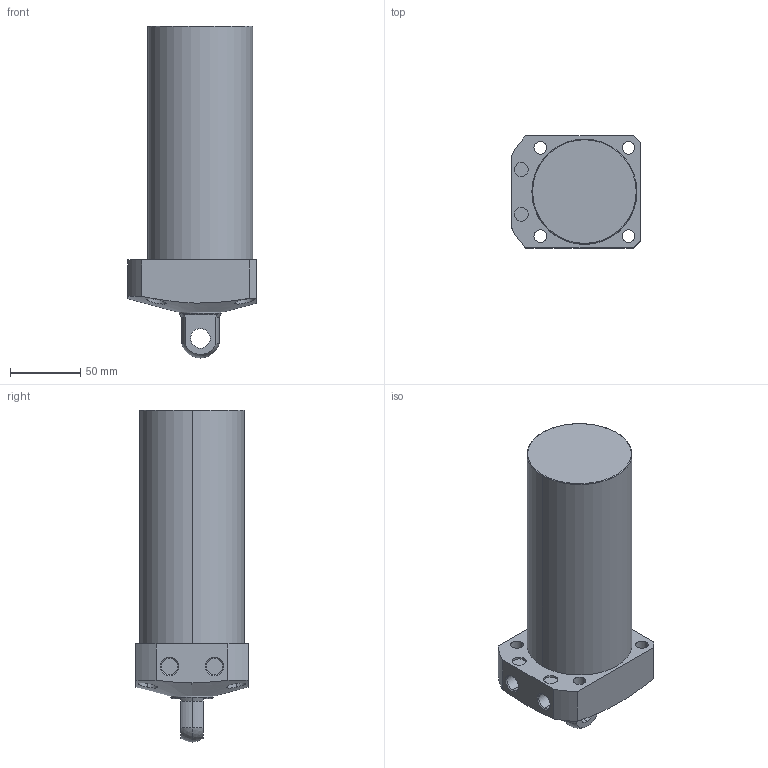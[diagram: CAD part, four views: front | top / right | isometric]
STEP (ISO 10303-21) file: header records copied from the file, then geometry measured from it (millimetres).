
FILE_DESCRIPTION (( 'STEP AP203' ), '1' );
FILE_NAME ('CLL-075CP-130.STEP', '2019-12-25T07:45:43', ( '' ), ( '' ), 'SwSTEP 2.0', 'SolidWorks 2015', '' );
FILE_SCHEMA (( 'CONFIG_CONTROL_DESIGN' ));
Length unit declared in the file: millimetre
Products named in the file (1): CLL-075CP-130
Bounding box: 92 x 80 x 237 mm (x, y, z)
Volume: 965225.3 mm3; surface area: 71252.1 mm2
Topology: 1 solids, 1 shells, 68 faces, 159 edges, 103 vertices
Faces by surface type: cylinder 35, plane 21, cone 8, sphere 2, torus 2
Entity records: 2459 total; most frequent: CARTESIAN_POINT 762, DIRECTION 357, ORIENTED_EDGE 318, EDGE_CURVE 159, AXIS2_PLACEMENT_3D 149, VERTEX_POINT 103, EDGE_LOOP 88, CIRCLE 80
